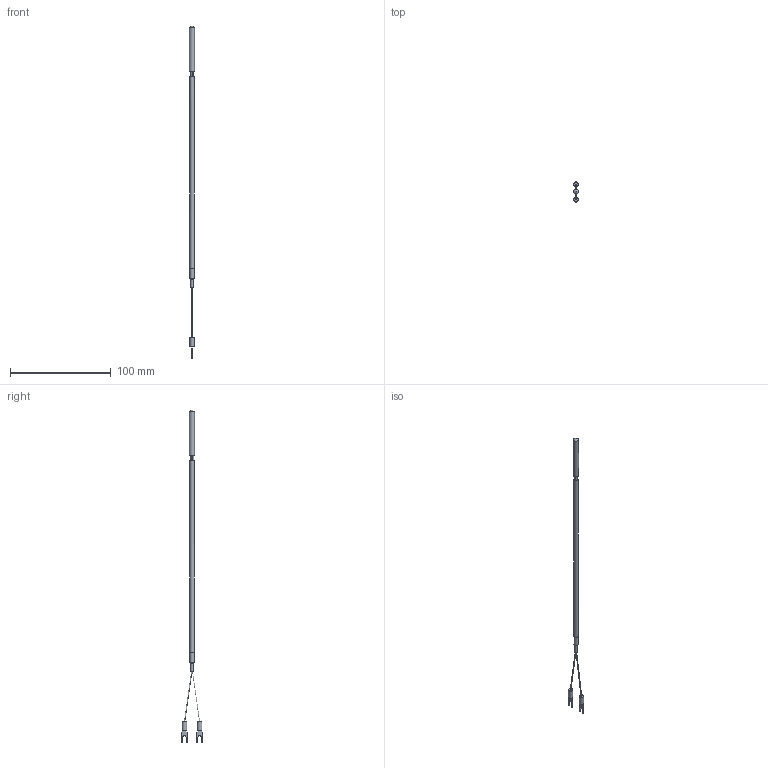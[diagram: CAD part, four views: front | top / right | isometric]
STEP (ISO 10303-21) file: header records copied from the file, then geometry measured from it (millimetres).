
FILE_DESCRIPTION (( 'STEP AP203' ), '1' );
FILE_NAME ('YIT102-2(1).STEP', '2024-03-26T02:44:25', ( '' ), ( '' ), 'SwSTEP 2.0', 'SolidWorks 2021', '' );
FILE_SCHEMA (( 'CONFIG_CONTROL_DESIGN' ));
Length unit declared in the file: millimetre
Products named in the file (1): YIT102-2(1)
Bounding box: 5 x 20.85 x 329 mm (x, y, z)
Volume: 3870.3 mm3; surface area: 4147.8 mm2
Topology: 1 solids, 1 shells, 70 faces, 158 edges, 96 vertices
Faces by surface type: plane 44, cylinder 20, cone 4, bspline 2
Full cylindrical faces by diameter (mm): 2.36 x1, 4 x1, 4.2 x1, 4.5 x2, 5 x1
Entity records: 1933 total; most frequent: DIRECTION 336, CARTESIAN_POINT 331, ORIENTED_EDGE 284, EDGE_CURVE 142, AXIS2_PLACEMENT_3D 125, VERTEX_POINT 92, EDGE_LOOP 88, VECTOR 86
